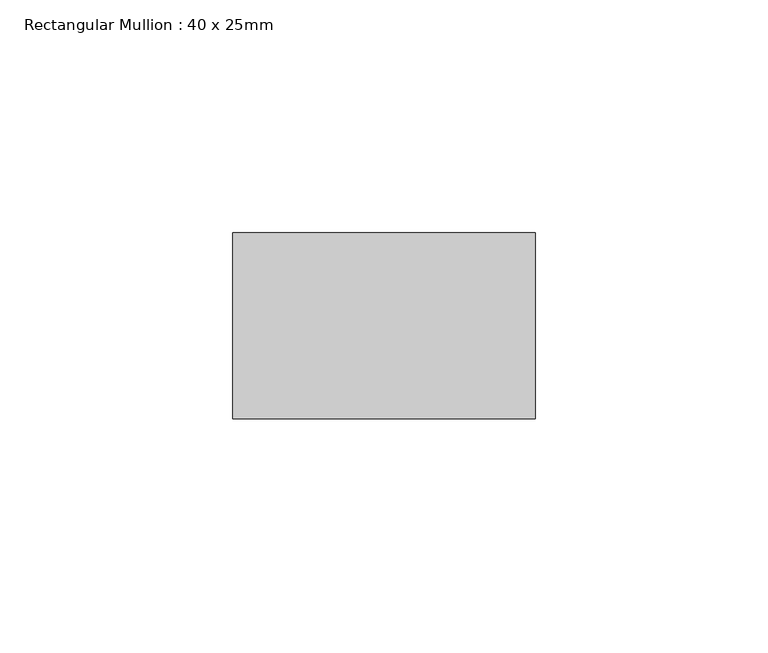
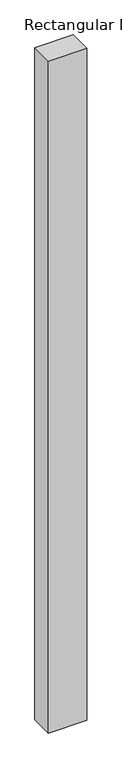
"""IFC4 building model written with IfcOpenShell, lengths in millimetres: member geometry, Rectangular Mullion : 40 x 25mm."""

from ifc_helpers import new_model, si_unit, frame, origin, place, context, project, spatial, polyline, outline, extrude, source, transform, mapped, element, save


def rectangular_mullion_40_x_25mm_a5ae2cf1(model_context):
    return source(origin(), model_context, "Body", "SweptSolid", [
        extrude(outline(polyline([(0.0, -20.0), (0.0, -60.0), (-65.0, -60.0), (-65.0, -20.0), (0.0, -20.0)])), frame((0.0, 0.0, -1210.0), z_axis=(0.0, 0.0, 1.0), x_axis=(1.0, 0.0, 0.0)), (0.0, 0.0, 1.0), 1210.0),
    ])


if __name__ == "__main__":
    model = new_model("IFC4")
    model_context = context("Model", 3, world=origin())
    ifc_project = project(units=[si_unit("LENGTHUNIT", "METRE", prefix="MILLI")], contexts=[model_context])
    site = spatial("IfcSite", under=ifc_project)
    building = spatial("IfcBuilding", under=site)
    placement = place(None, origin())
    rectangular_mullion_40_x_25mm_shape = rectangular_mullion_40_x_25mm_a5ae2cf1(model_context)
    element("IfcMember", 1, ObjectType="Rectangular Mullion : 40 x 25mm", at=placement, inside=building, context=model_context, shape_type="MappedRepresentation", body=[
        mapped(rectangular_mullion_40_x_25mm_shape, transform((0.0, 0.0, 0.0), x_axis=(1.0, 0.0, 0.0), y_axis=(0.0, 1.0, 0.0), z_axis=(0.0, 0.0, 1.0))),
    ])
    save(model, "model.ifc")
